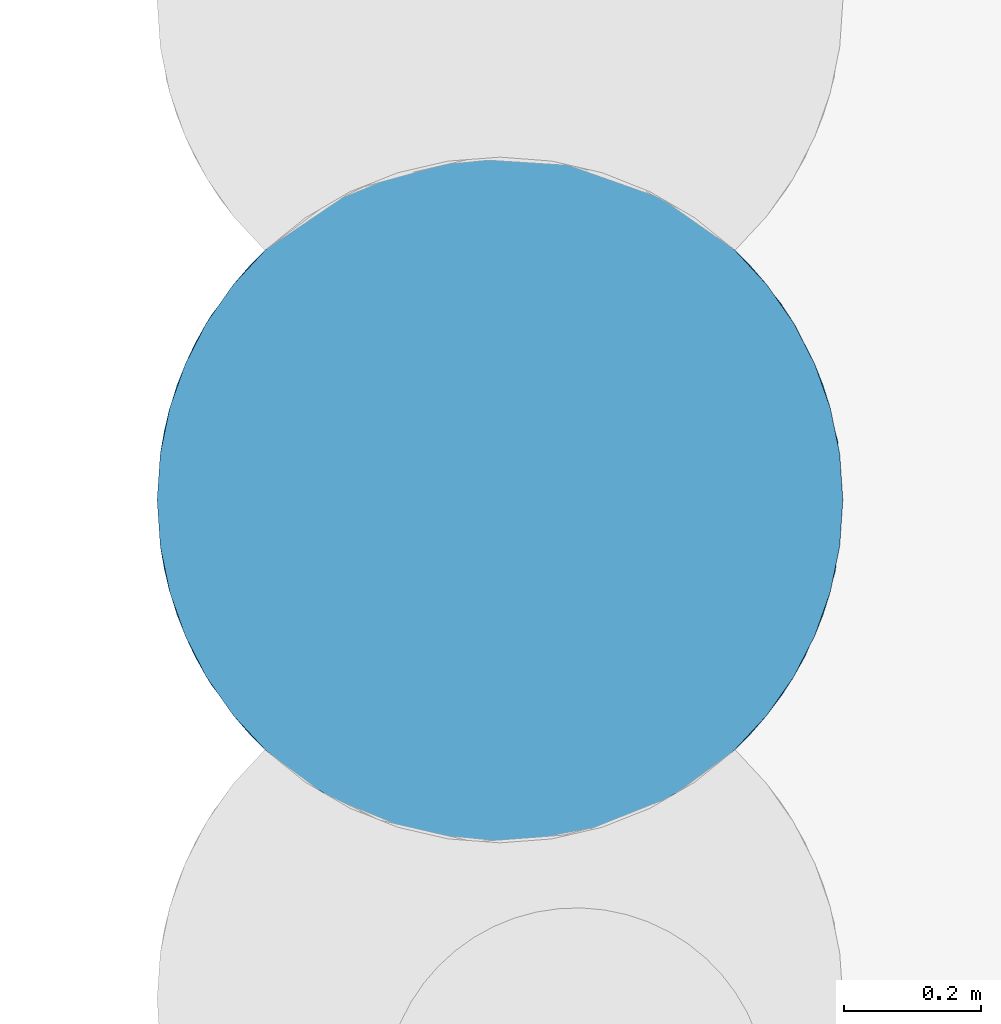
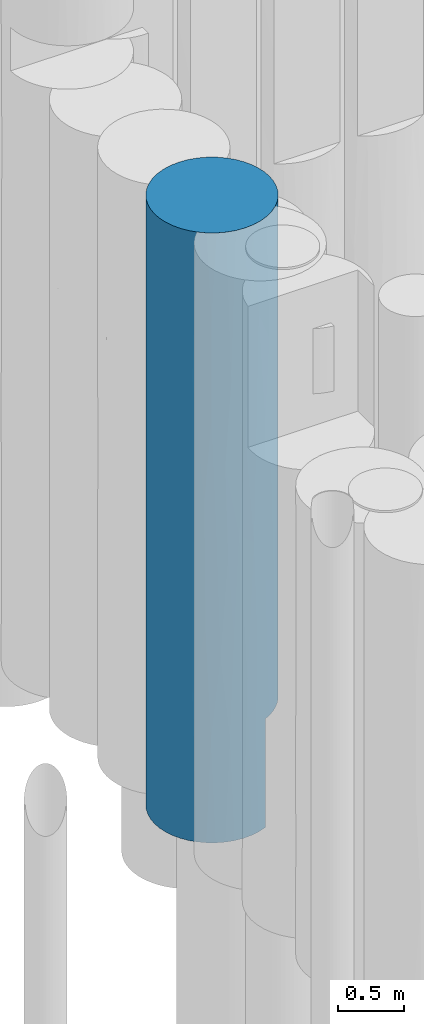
# One storey, part 34 of 104: 1 pile.
"""IFC2X3 building model written with IfcOpenShell, lengths in millimetres."""

from ifc_helpers import new_model, entity, si_unit, converted_unit, derived_unit, direction, frame, origin, place, context, subcontext, project, spatial, faceted_brep, source, transform, mapped, material, element, save


model = new_model("IFC2X3")

# Units and contexts
model_context = context("Model", 3, precision=0.01, world=origin(), true_north=direction((6.12303176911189e-17, 1.0)))
body_context = subcontext(model_context, "Body", "Model", "MODEL_VIEW")
ifc_project = project(units=[si_unit("LENGTHUNIT", "METRE", prefix="MILLI"), si_unit("AREAUNIT", "SQUARE_METRE", prefix="MILLI"), si_unit("VOLUMEUNIT", "CUBIC_METRE"), converted_unit("PLANEANGLEUNIT", "DEGREE", entity("IfcRatioMeasure", 0.0174532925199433), si_unit("PLANEANGLEUNIT", "RADIAN"), dimensions=[0, 0, 0, 0, 0, 0, 0]), si_unit("MASSUNIT", "GRAM", prefix="KILO"), derived_unit("MASSDENSITYUNIT", [(si_unit("MASSUNIT", "GRAM", prefix="KILO"), 1), (si_unit("LENGTHUNIT", "METRE"), -3)]), derived_unit("MOMENTOFINERTIAUNIT", [(si_unit("LENGTHUNIT", "METRE"), 4)]), si_unit("TIMEUNIT", "SECOND"), si_unit("FREQUENCYUNIT", "HERTZ"), si_unit("THERMODYNAMICTEMPERATUREUNIT", "DEGREE_CELSIUS"), derived_unit("THERMALTRANSMITTANCEUNIT", [(si_unit("MASSUNIT", "GRAM", prefix="KILO"), 1), (si_unit("THERMODYNAMICTEMPERATUREUNIT", "KELVIN"), -1), (si_unit("TIMEUNIT", "SECOND"), -3)]), derived_unit("VOLUMETRICFLOWRATEUNIT", [(si_unit("LENGTHUNIT", "METRE"), 3), (si_unit("TIMEUNIT", "SECOND"), -1)]), si_unit("ELECTRICCURRENTUNIT", "AMPERE"), si_unit("ELECTRICVOLTAGEUNIT", "VOLT"), si_unit("POWERUNIT", "WATT"), si_unit("FORCEUNIT", "NEWTON", prefix="KILO"), si_unit("ILLUMINANCEUNIT", "LUX"), si_unit("LUMINOUSFLUXUNIT", "LUMEN"), si_unit("LUMINOUSINTENSITYUNIT", "CANDELA"), derived_unit("USERDEFINED", [(si_unit("MASSUNIT", "GRAM", prefix="KILO"), -1), (si_unit("LENGTHUNIT", "METRE"), -2), (si_unit("TIMEUNIT", "SECOND"), 3), (si_unit("LUMINOUSFLUXUNIT", "LUMEN"), 1)]), derived_unit("LINEARVELOCITYUNIT", [(si_unit("LENGTHUNIT", "METRE"), 1), (si_unit("TIMEUNIT", "SECOND"), -1)]), si_unit("PRESSUREUNIT", "PASCAL"), derived_unit("USERDEFINED", [(si_unit("LENGTHUNIT", "METRE"), -2), (si_unit("MASSUNIT", "GRAM", prefix="KILO"), 1), (si_unit("TIMEUNIT", "SECOND"), -2)]), derived_unit("LINEARFORCEUNIT", [(si_unit("MASSUNIT", "GRAM", prefix="KILO"), 1), (si_unit("LENGTHUNIT", "METRE"), 1), (si_unit("TIMEUNIT", "SECOND"), -2), (si_unit("LENGTHUNIT", "METRE"), -1)]), derived_unit("PLANARFORCEUNIT", [(si_unit("MASSUNIT", "GRAM", prefix="KILO"), 1), (si_unit("LENGTHUNIT", "METRE"), 1), (si_unit("TIMEUNIT", "SECOND"), -2), (si_unit("LENGTHUNIT", "METRE"), -2)])], contexts=[model_context])

# Site, building, storey
site_placement = place(None, origin())
site = spatial("IfcSite", under=ifc_project, at=site_placement, Name="Theater aan de Parade", CompositionType="ELEMENT")
building_placement = place(site_placement, origin())
building = spatial("IfcBuilding", under=site, at=building_placement, Name="Theater aan de Parade", CompositionType="ELEMENT")
storey_placement = place(building_placement, frame((0.0, 0.0, -5520.0)))
storey = spatial("IfcBuildingStorey", under=building, at=storey_placement, Name="-2 kelder", CompositionType="ELEMENT", Elevation=-5520.0)

# Pile
ifc_material = material(Name="00_PBT_MAT_grout")
shared_shape = source(origin(), body_context, "Body", "Brep", [
    faceted_brep([(158.803286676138, 865.58491349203, 0.0), (215.352244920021, 911.552500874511, 0.0), (277.97654737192, 948.802903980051, 0.0), (345.350318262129, 976.555812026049, 0.0), (416.042931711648, 994.221699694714, 0.0), (488.55325423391, 1001.42514906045, 0.0), (561.341488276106, 998.012827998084, 0.0), (632.861071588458, 984.056970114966, 0.0), (701.595316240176, 959.852822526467, 0.0), (701.595316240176, 43.3377219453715, 0.0), (632.861071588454, 19.1335743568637, 0.0), (561.341488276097, 5.17771647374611, 0.0), (488.553254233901, 1.76539541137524, 0.0), (416.042931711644, 8.9688447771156, 0.0), (345.350318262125, 26.6347324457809, 0.0), (277.976547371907, 54.3876404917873, 0.0), (215.352244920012, 91.6380435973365, 0.0), (158.803286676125, 137.605630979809, 0.0), (112.65632225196, 187.387549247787, 0.0), (73.6765052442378, 242.972904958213, 0.0), (42.5853143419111, 303.328132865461, 0.0), (19.9560911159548, 367.342900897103, 0.0), (6.20801873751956, 433.834892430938, 0.0), (1.5952722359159, 501.595272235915, 0.0), (6.20801873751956, 569.355652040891, 0.0), (19.9560911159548, 635.847643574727, 0.0), (42.5853143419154, 699.862411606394, 0.0), (73.6765052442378, 760.217639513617, 0.0), (112.656322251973, 815.802995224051, 0.0), (928.938724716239, 761.167176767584, 2410.58574511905), (890.532271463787, 815.805409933, 1000.0), (868.304056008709, 841.484471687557, 2205.34871043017), (597.355853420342, 992.339514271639, 847.330239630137), (803.505306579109, 900.155595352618, 2013.71666275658), (844.38383680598, 865.59527223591, 1000.0), (800.505678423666, 902.410153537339, 1000.0), (929.515196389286, 760.215724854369, 1000.0), (685.996518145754, 966.349164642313, 4066.1315458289), (650.39527574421, 978.940596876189, 5620.0), (720.545942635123, 951.106789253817, 5620.0), (973.010523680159, 668.231584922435, 2471.4193553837), (983.237088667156, 635.838188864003, 1000.0), (960.608068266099, 699.855840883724, 1000.0), (317.194025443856, 966.349164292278, 4659.61641931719), (282.644601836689, 951.106789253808, 5620.0), (352.795268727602, 978.940596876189, 5620.0), (80.5921486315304, 771.32915945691, 2115.29296881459), (30.1828483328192, 668.239583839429, 1936.10278614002), (44.1578118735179, 703.463966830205, 2919.61019938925), (777.063913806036, 918.868596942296, 2785.0151023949), (727.528044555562, 947.638299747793, 1950.76158669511), (525.009615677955, 1001.04673986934, 1517.11154218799), (380.37438335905, 986.678250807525, 1124.58498632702), (426.30127336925, 995.893576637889, 2138.87040203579), (701.595316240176, 959.852822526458, 1000.0), (311.157198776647, 963.90830490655, 2087.85019600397), (629.760183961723, 984.889960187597, 1705.74148790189), (1.59527223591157, 501.595272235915, 1561.54585866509), (17.9787582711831, 628.540407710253, 1004.43543173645), (57.1053069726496, 730.568350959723, 1043.55298003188), (752.718177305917, 933.957720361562, 1000.0), (580.551658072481, 995.321804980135, 4517.26581996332), (134.878781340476, 841.47615623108, 4258.15024904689), (158.80670766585, 865.59527223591, 5620.0), (233.407602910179, 923.585051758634, 4765.72577113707), (112.644025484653, 815.787773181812, 5620.0), (57.0986427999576, 730.555413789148, 4676.41921001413), (73.6675450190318, 760.202813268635, 5620.0), (996.982276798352, 569.35747195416, 5620.0), (1001.59527223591, 501.595272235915, 5620.0), (1001.59527223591, 501.595272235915, 4123.07545828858), (910.968403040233, 788.673031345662, 3309.98592411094), (868.31176209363, 841.476157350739, 4401.7587731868), (932.088889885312, 755.90855376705, 4615.56453284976), (996.984106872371, 569.344091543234, 1000.0), (890.546518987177, 815.787773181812, 5620.0), (1001.59527223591, 501.595272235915, 1000.0), (1001.59527223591, 501.595272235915, 2561.53772914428), (983.235934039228, 635.842331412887, 5620.0), (973.010577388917, 668.231432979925, 4148.56407264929), (960.609902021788, 699.851595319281, 5620.0), (840.043323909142, 869.634558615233, 3467.75875515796), (929.522999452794, 760.202813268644, 5620.0), (783.654941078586, 914.441906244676, 4266.82501326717), (844.383836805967, 865.595272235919, 5620.0), (206.494455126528, 905.223204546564, 2142.01371311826), (260.865593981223, 939.829481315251, 2931.22311107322), (994.157877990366, 587.514300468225, 3345.41582746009), (959.276953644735, 702.909649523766, 3309.99201507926), (785.707284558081, 913.032223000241, 5620.0), (30.1799660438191, 668.231430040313, 3903.08946803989), (11.6328884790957, 601.279084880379, 2715.80418864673), (42.5806424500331, 699.851595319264, 5620.0), (245.984924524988, 931.320009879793, 1124.58430920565), (665.259677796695, 974.050521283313, 2926.77315730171), (134.8891355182, 841.487327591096, 1387.65378984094), (1.5952722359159, 501.595272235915, 5620.0), (6.20826767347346, 569.357471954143, 5620.0), (11.9517035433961, 602.83348457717, 4676.41592092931), (19.9546104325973, 635.84233141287, 5620.0), (249.344535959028, 933.300688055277, 3910.63302419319), (362.478182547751, 981.851907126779, 3555.72400892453), (453.415492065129, 999.268567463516, 3413.4536991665), (1.5952722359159, 501.595272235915, 3123.07334771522), (1.5952722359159, 501.595272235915, 4058.45414133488), (501.595272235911, 1001.59527223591, 5620.0), (576.853265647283, 995.899059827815, 5620.0), (463.858643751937, 1000.16918538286, 4271.86307752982), (426.337278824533, 995.899059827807, 5620.0), (217.483259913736, 913.032223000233, 5620.0), (539.331899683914, 1000.16918546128, 3065.18090742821), (77.4295681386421, 766.328072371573, 3732.46968945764), (134.889135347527, 841.487327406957, 2809.99443914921), (134.88913582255, 161.703216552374, 1387.65379000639), (57.1053071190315, 272.622193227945, 1043.55298077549), (77.4295682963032, 236.862471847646, 3732.46969076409), (57.0986428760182, 272.635130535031, 4676.41921043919), (30.1799661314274, 334.959114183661, 3903.08946832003), (80.5921488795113, 231.861384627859, 2115.29297336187), (17.9787583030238, 374.65013664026, 1004.43543315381), (245.984924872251, 71.8705343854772, 950.268780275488), (11.9517035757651, 400.357059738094, 4676.41592085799), (6.20826767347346, 433.833072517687, 5620.0), (112.644025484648, 187.402771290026, 5620.0), (134.878781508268, 161.714388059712, 4258.15025045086), (525.009616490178, 2.14380464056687, 1462.58935629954), (380.374383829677, 16.5122935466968, 950.269609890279), (344.134639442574, 27.0363727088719, 3463.60033950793), (249.344536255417, 69.8898562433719, 3910.63302773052), (283.246122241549, 51.7912608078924, 2817.04243556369), (996.982276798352, 433.83307251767, 5620.0), (973.010578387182, 334.959114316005, 4401.73379938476), (158.806707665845, 137.595272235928, 5620.0), (868.311763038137, 161.714388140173, 4220.64805884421), (753.846008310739, 69.8898562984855, 4474.12332022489), (777.063915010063, 84.3219483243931, 3303.49543864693), (720.545942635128, 52.0837552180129, 5620.0), (650.395275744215, 24.2499475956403, 5620.0), (632.213529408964, 18.9578608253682, 4763.88208733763), (539.331900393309, 3.0213590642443, 4658.26851578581), (506.990602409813, 1.62438267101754, 3686.89357512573), (613.94469979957, 14.381144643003, 3907.57254843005), (311.157199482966, 39.2822392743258, 1702.73276851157), (960.608068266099, 303.334703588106, 1000.0), (983.237088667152, 367.352355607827, 1000.0), (973.010524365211, 334.958961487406, 2218.26297027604), (19.9546104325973, 367.348213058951, 5620.0), (44.1578120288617, 299.726577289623, 2919.6102012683), (134.88913589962, 161.703216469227, 2809.99443914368), (30.1828485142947, 334.950960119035, 1936.10278825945), (11.632888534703, 401.911459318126, 2715.80418923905), (42.5806424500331, 303.338949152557, 5620.0), (73.6675450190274, 242.987731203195, 5620.0), (210.338487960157, 95.1847831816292, 1973.56661371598), (203.830541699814, 99.9285381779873, 3144.87709953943), (249.344536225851, 69.8898562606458, 4800.54953955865), (282.644601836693, 52.0837552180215, 5620.0), (217.483259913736, 90.1583214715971, 5620.0), (616.668596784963, 15.0172928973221, 1813.49239707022), (605.423121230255, 12.4942828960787, 898.437979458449), (576.853265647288, 7.29148464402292, 5620.0), (501.595272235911, 1.5952722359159, 5620.0), (389.245844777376, 14.3811446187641, 4236.80661635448), (352.795268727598, 24.2499475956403, 5620.0), (426.337278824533, 7.29148464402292, 5620.0), (752.718177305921, 69.2328241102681, 1000.0), (706.241744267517, 45.39375811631, 2271.23175715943), (701.595316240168, 43.3377219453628, 1000.0), (990.787983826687, 398.200441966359, 3331.95295130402), (996.984106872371, 433.846452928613, 1000.0), (800.505678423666, 100.78039093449, 1000.0), (822.972350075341, 118.559015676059, 2196.87374705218), (912.474389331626, 216.677124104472, 2242.39719517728), (929.515196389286, 242.974819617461, 1000.0), (844.383836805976, 137.59527223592, 1000.0), (927.789541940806, 240.14079346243, 4627.43324064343), (890.546518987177, 187.402771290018, 5620.0), (785.707284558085, 90.1583214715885, 5620.0), (983.235934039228, 367.348213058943, 5620.0), (703.993537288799, 44.3918795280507, 3751.37264914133), (585.475880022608, 8.68144240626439, 2686.97453095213), (844.383836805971, 137.59527223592, 5620.0), (866.129625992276, 159.375014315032, 3135.28364369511), (890.532271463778, 187.385134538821, 1000.0), (960.609902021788, 303.338949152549, 5620.0), (946.091901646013, 272.63513063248, 3310.00287078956), (929.522999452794, 242.987731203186, 5620.0), (412.137178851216, 9.6631127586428, 1890.85662457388), (452.166694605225, 4.04445501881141, 2805.10305387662), (365.433859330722, 20.4923002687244, 2602.55453647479)], [[[0, 1, 2, 3, 4, 5, 6, 7, 8, 9, 10, 11, 12, 13, 14, 15, 16, 17, 18, 19, 20, 21, 22, 23, 24, 25, 26, 27, 28]], [[29, 30, 31]], [[6, 32, 7]], [[33, 34, 35]], [[36, 30, 29]], [[37, 38, 39]], [[40, 41, 42]], [[43, 44, 45]], [[46, 47, 48]], [[49, 33, 50]], [[51, 52, 53]], [[54, 8, 7]], [[5, 52, 51]], [[53, 52, 55]], [[51, 56, 32]], [[31, 33, 49]], [[57, 58, 24]], [[47, 59, 58]], [[50, 33, 60]], [[37, 61, 38]], [[62, 63, 64]], [[65, 66, 67]], [[30, 34, 31]], [[68, 69, 70]], [[71, 72, 73]], [[40, 74, 41]], [[75, 73, 72]], [[76, 74, 77]], [[78, 79, 80]], [[70, 79, 68]], [[3, 52, 4]], [[50, 60, 54]], [[81, 72, 71]], [[80, 79, 73]], [[75, 82, 73]], [[36, 29, 42]], [[63, 62, 65]], [[83, 81, 49]], [[75, 72, 84]], [[68, 79, 78]], [[85, 86, 55]], [[83, 84, 72]], [[87, 40, 88]], [[39, 89, 83]], [[90, 48, 91]], [[5, 51, 32]], [[92, 67, 66]], [[1, 93, 2]], [[49, 94, 37]], [[56, 50, 54]], [[95, 93, 0]], [[3, 93, 52]], [[0, 93, 1]], [[28, 59, 95]], [[2, 93, 3]], [[28, 95, 0]], [[46, 59, 47]], [[57, 24, 23]], [[72, 81, 83]], [[96, 97, 98]], [[98, 97, 99]], [[59, 27, 26]], [[81, 31, 49]], [[100, 64, 43]], [[58, 59, 26]], [[26, 25, 58]], [[53, 101, 102]], [[31, 71, 29]], [[103, 104, 90]], [[61, 105, 106]], [[107, 43, 108]], [[74, 40, 77]], [[40, 29, 88]], [[105, 107, 108]], [[101, 100, 43]], [[5, 4, 52]], [[93, 85, 55]], [[93, 55, 52]], [[28, 27, 59]], [[64, 44, 43]], [[109, 64, 63]], [[110, 107, 61]], [[94, 49, 50]], [[48, 90, 111]], [[90, 98, 66]], [[66, 98, 99]], [[66, 111, 90]], [[66, 65, 62]], [[100, 112, 62]], [[66, 99, 92]], [[94, 56, 110]], [[91, 57, 103]], [[107, 105, 61]], [[85, 95, 112]], [[79, 87, 88]], [[111, 66, 62]], [[90, 104, 98]], [[96, 98, 104]], [[108, 43, 45]], [[101, 43, 107]], [[94, 50, 56]], [[110, 37, 94]], [[102, 101, 107]], [[86, 101, 55]], [[62, 112, 111]], [[112, 46, 48]], [[112, 48, 111]], [[91, 48, 47]], [[112, 95, 46]], [[59, 46, 95]], [[32, 54, 7]], [[56, 51, 110]], [[32, 6, 5]], [[54, 32, 56]], [[57, 91, 47]], [[90, 91, 103]], [[95, 85, 93]], [[86, 112, 100]], [[101, 53, 55]], [[110, 51, 53]], [[24, 58, 25]], [[57, 47, 58]], [[112, 86, 85]], [[101, 86, 100]], [[62, 64, 100]], [[44, 64, 109]], [[34, 33, 31]], [[60, 33, 35]], [[31, 81, 71]], [[83, 49, 37]], [[39, 83, 37]], [[84, 83, 89]], [[73, 88, 71]], [[79, 70, 87]], [[70, 77, 87]], [[40, 87, 77]], [[80, 73, 82]], [[73, 79, 88]], [[38, 61, 106]], [[110, 61, 37]], [[88, 29, 71]], [[29, 40, 42]], [[107, 110, 102]], [[53, 102, 110]], [[113, 114, 18]], [[115, 116, 117]], [[118, 114, 113]], [[119, 22, 21]], [[16, 15, 120]], [[104, 117, 121]], [[96, 121, 122]], [[20, 114, 119]], [[113, 18, 17]], [[123, 116, 124]], [[125, 126, 12]], [[127, 128, 129]], [[130, 131, 70]], [[120, 14, 126]], [[132, 123, 124]], [[133, 134, 135]], [[136, 137, 138]], [[13, 126, 14]], [[120, 15, 14]], [[139, 140, 141]], [[18, 114, 19]], [[126, 142, 120]], [[119, 21, 20]], [[121, 117, 116]], [[114, 20, 19]], [[143, 144, 145]], [[104, 103, 117]], [[146, 122, 121]], [[147, 148, 115]], [[149, 147, 150]], [[121, 116, 146]], [[115, 124, 116]], [[146, 116, 151]], [[116, 152, 151]], [[153, 129, 154]], [[113, 120, 153]], [[124, 155, 132]], [[155, 156, 157]], [[158, 125, 159]], [[139, 160, 161]], [[162, 163, 155]], [[162, 164, 163]], [[139, 141, 138]], [[129, 128, 154]], [[165, 166, 167]], [[12, 126, 13]], [[167, 159, 10]], [[168, 145, 77]], [[169, 145, 144]], [[9, 167, 10]], [[165, 170, 171]], [[150, 57, 149]], [[124, 128, 155]], [[166, 171, 135]], [[11, 125, 12]], [[149, 119, 114]], [[77, 145, 169]], [[17, 16, 120]], [[168, 70, 131]], [[130, 70, 69]], [[143, 172, 173]], [[155, 163, 156]], [[170, 174, 171]], [[172, 143, 145]], [[133, 175, 176]], [[136, 134, 177]], [[23, 22, 57]], [[130, 178, 131]], [[135, 134, 179]], [[164, 162, 139]], [[138, 160, 139]], [[169, 76, 77]], [[165, 171, 166]], [[134, 136, 138]], [[180, 125, 158]], [[159, 11, 10]], [[181, 134, 133]], [[118, 148, 147]], [[181, 177, 134]], [[182, 133, 135]], [[182, 135, 171]], [[183, 173, 172]], [[176, 181, 133]], [[131, 184, 175]], [[154, 124, 148]], [[123, 152, 116]], [[178, 184, 131]], [[185, 131, 175]], [[184, 186, 175]], [[174, 183, 171]], [[96, 104, 121]], [[187, 142, 126]], [[168, 131, 185]], [[145, 185, 172]], [[187, 125, 188]], [[153, 120, 142]], [[17, 120, 113]], [[164, 139, 161]], [[162, 127, 140]], [[155, 157, 132]], [[162, 155, 128]], [[153, 142, 129]], [[148, 113, 153]], [[189, 142, 187]], [[129, 189, 127]], [[179, 166, 135]], [[140, 180, 141]], [[147, 115, 117]], [[148, 124, 115]], [[150, 117, 103]], [[147, 149, 118]], [[114, 118, 149]], [[113, 148, 118]], [[162, 140, 139]], [[180, 140, 188]], [[125, 180, 188]], [[180, 166, 179]], [[145, 168, 185]], [[70, 168, 77]], [[125, 187, 126]], [[189, 187, 188]], [[182, 185, 133]], [[172, 171, 183]], [[117, 150, 147]], [[57, 150, 103]], [[149, 57, 119]], [[22, 119, 57]], [[171, 172, 182]], [[185, 182, 172]], [[138, 141, 179]], [[160, 138, 137]], [[188, 140, 127]], [[142, 189, 129]], [[188, 127, 189]], [[128, 127, 162]], [[158, 167, 166]], [[11, 159, 125]], [[167, 158, 159]], [[166, 180, 158]], [[176, 175, 186]], [[185, 175, 133]], [[138, 179, 134]], [[179, 141, 180]], [[124, 154, 128]], [[153, 154, 148]], [[39, 38, 106, 105, 108, 45, 44, 109, 63, 65, 67, 92, 99, 97, 96, 122, 146, 151, 152, 123, 132, 157, 156, 163, 164, 161, 160, 137, 136, 177, 181, 176, 186, 184, 178, 130, 69, 68, 78, 80, 82, 75, 84, 89]], [[34, 30, 36, 42, 41, 74, 76, 169, 144, 143, 173, 183, 174, 170, 165, 167, 54, 60, 35]], [[167, 9, 8, 54]]]),
])
pile_placement = place(storey_placement, frame((34252.2628578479, 41223.2179922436, -3840.0)))
element("IfcPile", 1, at=pile_placement, inside=storey, material=ifc_material, Name="17_PBT_SFO_grondkering_rond:Ø1000 (grondkering)", ObjectType="17_PBT_SFO_grondkering_rond:Ø1000 (grondkering)", PredefinedType="NOTDEFINED", context=body_context, shape_type="MappedRepresentation", body=[
    mapped(shared_shape, transform((0.0, 0.0, 0.0), scale=1.0)),
])

save(model, "model.ifc")
